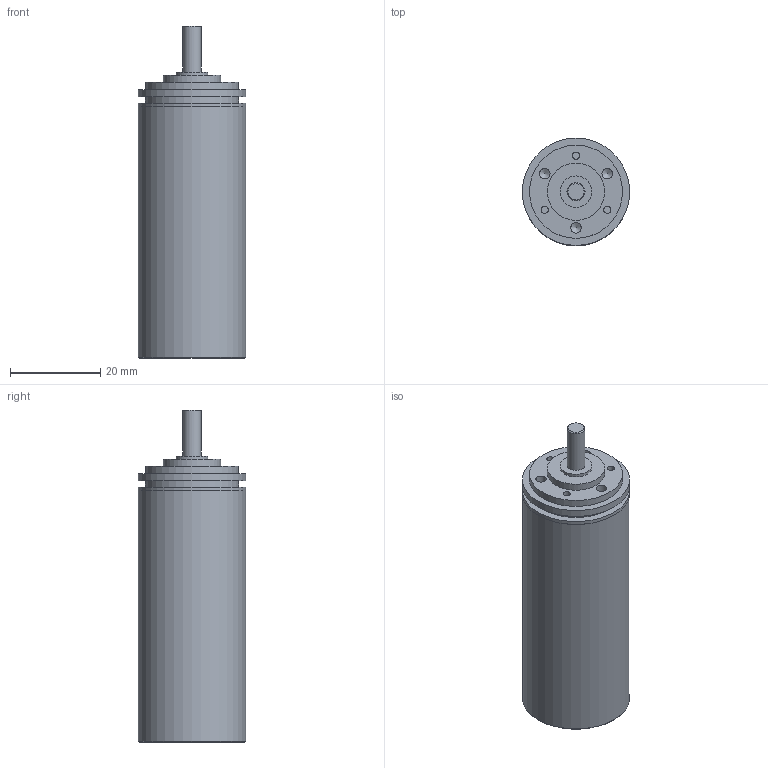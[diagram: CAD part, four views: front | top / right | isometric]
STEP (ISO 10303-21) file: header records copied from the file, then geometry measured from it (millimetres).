
FILE_DESCRIPTION(/* description */ (''),/* implementation_level */ '2;1');
FILE_NAME(/* name */ '22-2_8.stp',/* time_stamp */ '2016-08-26T11:17:34+02:00',/* author */ ('DR. FRITZ FAULHABER GmbH & Co. KG'),/* organization */ ('DR. FRITZ FAULHABER GmbH & Co. KG'),/* preprocessor_version */ 'ST-DEVELOPER v16',/* originating_system */ 'SIEMENS PLM Software NX 10.0',/* authorisation */ '');
FILE_SCHEMA (('AUTOMOTIVE_DESIGN { 1 0 10303 214 3 1 1 1 }'));
Length unit declared in the file: millimetre
Products named in the file (1): H00000858_A
Bounding box: 23.8 x 23.8 x 73.6 mm (x, y, z)
Volume: 19279.8 mm3; surface area: 7531.6 mm2
Topology: 1 solids, 1 shells, 42 faces, 74 edges, 49 vertices
Faces by surface type: cylinder 19, plane 17, cone 6
Full cylindrical faces by diameter (mm): 1.6 x3, 2.329 x3, 3.5 x1, 4 x1, 4.5 x1, 7 x2, 12.7 x1, 20.63 x2, 22 x1, 23.79 x1, 23.8 x3
Entity records: 870 total; most frequent: DIRECTION 168, CARTESIAN_POINT 128, AXIS2_PLACEMENT_3D 84, EDGE_LOOP 82, ORIENTED_EDGE 82, FACE_BOUND 80, VERTEX_POINT 44, ADVANCED_FACE 42
